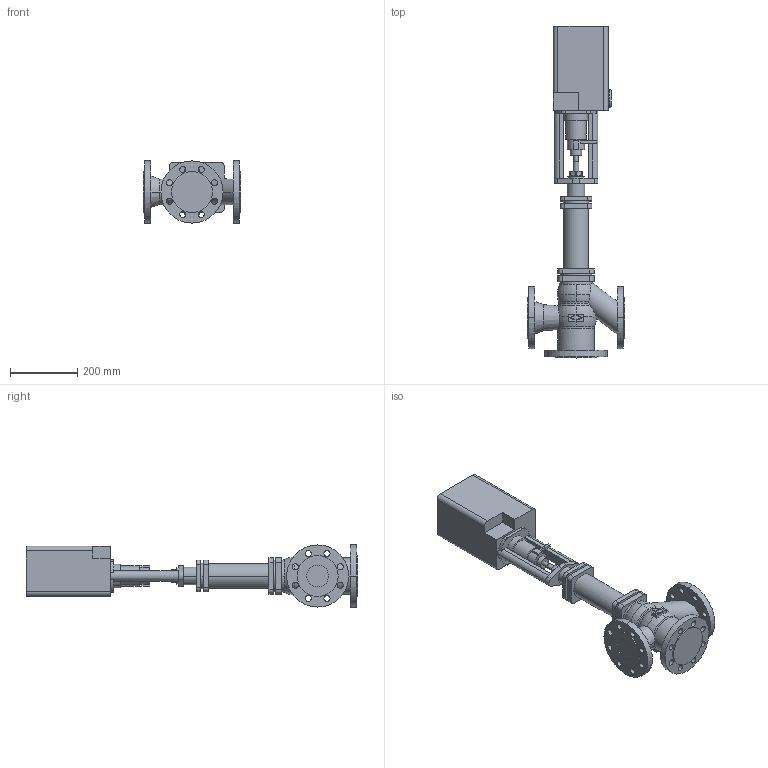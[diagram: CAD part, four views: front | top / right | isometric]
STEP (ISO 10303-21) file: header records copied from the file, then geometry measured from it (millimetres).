
FILE_DESCRIPTION(('OneSpaceDesigner STEP Export'),'2;1');
FILE_NAME('c000002447.stp','2006-09-21T11:47:52',(''),(''),'OneSpace Designer STEP processor for AP214 (Solid Model)','OneSpace Designer 13.20A 18-Aug-2005 (C) CoCreate Software GmbH','');
FILE_SCHEMA(('AUTOMOTIVE_DESIGN { 1 0 10303 214 1 1 1 1 }'));
Length unit declared in the file: millimetre
Products named in the file (2): 1; 2
Bounding box: 290 x 989 x 185 mm (x, y, z)
Volume: 12716815.6 mm3; surface area: 699536 mm2
Topology: 2 solids, 2 shells, 274 faces, 713 edges, 473 vertices
Faces by surface type: cylinder 136, plane 114, torus 20, cone 4
Entity records: 7838 total; most frequent: CARTESIAN_POINT 1462, ORIENTED_EDGE 1426, DIRECTION 1187, EDGE_CURVE 713, VERTEX_POINT 473, AXIS2_PLACEMENT_3D 420, EDGE_LOOP 352, VECTOR 347
